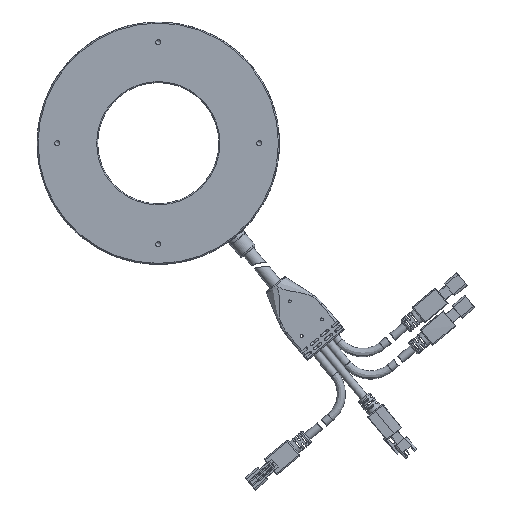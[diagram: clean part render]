
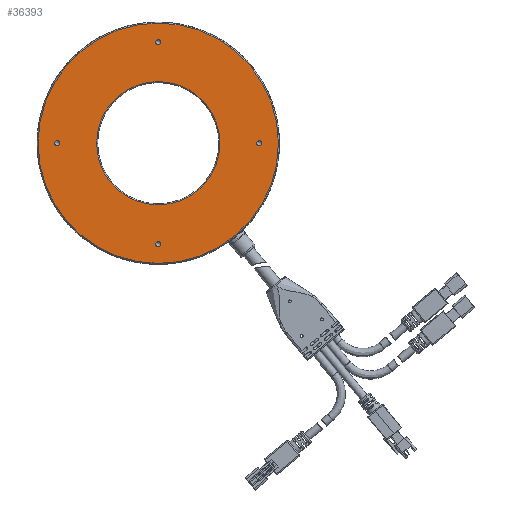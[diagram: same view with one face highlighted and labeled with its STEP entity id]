
A CAD part, front view. The second image highlights one B-rep face of the part: STEP entity #36393.
In plain terms, the highlighted planar face has unit normal (0, -1, 0).
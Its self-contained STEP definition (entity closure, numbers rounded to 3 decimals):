
#1524 = DIRECTION ( 'NONE',  ( 0., 0., 1. ) ) ;
#2738 = CIRCLE ( 'NONE', #19715, 59.5 ) ;
#3024 = DIRECTION ( 'NONE',  ( 0., 1., 0. ) ) ;
#4426 = ORIENTED_EDGE ( 'NONE', *, *, #37205, .T. ) ;
#4578 = VERTEX_POINT ( 'NONE', #55216 ) ;
#8710 = CARTESIAN_POINT ( 'NONE',  ( 0., 0., 30.5 ) ) ;
#10158 = DIRECTION ( 'NONE',  ( 0., 0., 1. ) ) ;
#10213 = CARTESIAN_POINT ( 'NONE',  ( 30., 0., 0. ) ) ;
#10699 = FACE_BOUND ( 'NONE', #25989, .T. ) ;
#10761 = AXIS2_PLACEMENT_3D ( 'NONE', #27855, #42547, #10158 ) ;
#11083 = EDGE_LOOP ( 'NONE', ( #22145 ) ) ;
#12219 = CARTESIAN_POINT ( 'NONE',  ( 0., 0., 0. ) ) ;
#14372 = CARTESIAN_POINT ( 'NONE',  ( 0., 0., -48.75 ) ) ;
#15791 = AXIS2_PLACEMENT_3D ( 'NONE', #10213, #42410, #19436 ) ;
#18466 = DIRECTION ( 'NONE',  ( 0., 1., 0. ) ) ;
#18954 = CARTESIAN_POINT ( 'NONE',  ( 0., 0., 59.5 ) ) ;
#19436 = DIRECTION ( 'NONE',  ( 0., 0., 1. ) ) ;
#19715 = AXIS2_PLACEMENT_3D ( 'NONE', #44087, #44495, #25709 ) ;
#19908 = CIRCLE ( 'NONE', #10761, 1.25 ) ;
#21553 = AXIS2_PLACEMENT_3D ( 'NONE', #12219, #3024, #51719 ) ;
#22145 = ORIENTED_EDGE ( 'NONE', *, *, #30993, .T. ) ;
#23023 = CARTESIAN_POINT ( 'NONE',  ( -50., 0., 0. ) ) ;
#23557 = FACE_BOUND ( 'NONE', #11083, .T. ) ;
#23751 = AXIS2_PLACEMENT_3D ( 'NONE', #23023, #18466, #27686 ) ;
#23821 = PLANE ( 'NONE',  #15791 ) ;
#24287 = EDGE_CURVE ( 'NONE', #47825, #47825, #56370, .T. ) ;
#25709 = DIRECTION ( 'NONE',  ( 0., 0., 1. ) ) ;
#25989 = EDGE_LOOP ( 'NONE', ( #37827 ) ) ;
#26473 = FACE_BOUND ( 'NONE', #30292, .T. ) ;
#27686 = DIRECTION ( 'NONE',  ( 0., 0., 1. ) ) ;
#27855 = CARTESIAN_POINT ( 'NONE',  ( 50., 0., 0. ) ) ;
#30292 = EDGE_LOOP ( 'NONE', ( #30925 ) ) ;
#30925 = ORIENTED_EDGE ( 'NONE', *, *, #35230, .T. ) ;
#30993 = EDGE_CURVE ( 'NONE', #56408, #56408, #36018, .T. ) ;
#31521 = DIRECTION ( 'NONE',  ( 0., 0., 1. ) ) ;
#35120 = FACE_OUTER_BOUND ( 'NONE', #51526, .T. ) ;
#35230 = EDGE_CURVE ( 'NONE', #36932, #36932, #59790, .T. ) ;
#35657 = CIRCLE ( 'NONE', #46802, 1.25 ) ;
#36018 = CIRCLE ( 'NONE', #23751, 1.25 ) ;
#36393 = ADVANCED_FACE ( 'NONE', ( #49590, #35120, #26473, #23557, #10699, #40164 ), #23821, .F. ) ;
#36658 = CARTESIAN_POINT ( 'NONE',  ( 0., 0., 51.25 ) ) ;
#36932 = VERTEX_POINT ( 'NONE', #14372 ) ;
#37205 = EDGE_CURVE ( 'NONE', #4578, #4578, #19908, .T. ) ;
#37827 = ORIENTED_EDGE ( 'NONE', *, *, #42358, .T. ) ;
#40164 = FACE_BOUND ( 'NONE', #48965, .T. ) ;
#40706 = CARTESIAN_POINT ( 'NONE',  ( -50., 0., 1.25 ) ) ;
#41176 = AXIS2_PLACEMENT_3D ( 'NONE', #45634, #54867, #31521 ) ;
#42188 = EDGE_LOOP ( 'NONE', ( #43256 ) ) ;
#42358 = EDGE_CURVE ( 'NONE', #58561, #58561, #35657, .T. ) ;
#42410 = DIRECTION ( 'NONE',  ( 0., 1., 0. ) ) ;
#42547 = DIRECTION ( 'NONE',  ( 0., 1., 0. ) ) ;
#43256 = ORIENTED_EDGE ( 'NONE', *, *, #24287, .T. ) ;
#44087 = CARTESIAN_POINT ( 'NONE',  ( 0., 0., 0. ) ) ;
#44128 = VERTEX_POINT ( 'NONE', #18954 ) ;
#44495 = DIRECTION ( 'NONE',  ( 0., -1., 0. ) ) ;
#45634 = CARTESIAN_POINT ( 'NONE',  ( 0., 0., -50. ) ) ;
#46802 = AXIS2_PLACEMENT_3D ( 'NONE', #56295, #52067, #1524 ) ;
#47825 = VERTEX_POINT ( 'NONE', #8710 ) ;
#48965 = EDGE_LOOP ( 'NONE', ( #4426 ) ) ;
#49590 = FACE_BOUND ( 'NONE', #42188, .T. ) ;
#51526 = EDGE_LOOP ( 'NONE', ( #52230 ) ) ;
#51719 = DIRECTION ( 'NONE',  ( 0., 0., 1. ) ) ;
#52067 = DIRECTION ( 'NONE',  ( 0., 1., 0. ) ) ;
#52230 = ORIENTED_EDGE ( 'NONE', *, *, #55979, .T. ) ;
#54867 = DIRECTION ( 'NONE',  ( 0., 1., 0. ) ) ;
#55216 = CARTESIAN_POINT ( 'NONE',  ( 50., 0., 1.25 ) ) ;
#55979 = EDGE_CURVE ( 'NONE', #44128, #44128, #2738, .T. ) ;
#56295 = CARTESIAN_POINT ( 'NONE',  ( 0., 0., 50. ) ) ;
#56370 = CIRCLE ( 'NONE', #21553, 30.5 ) ;
#56408 = VERTEX_POINT ( 'NONE', #40706 ) ;
#58561 = VERTEX_POINT ( 'NONE', #36658 ) ;
#59790 = CIRCLE ( 'NONE', #41176, 1.25 ) ;
